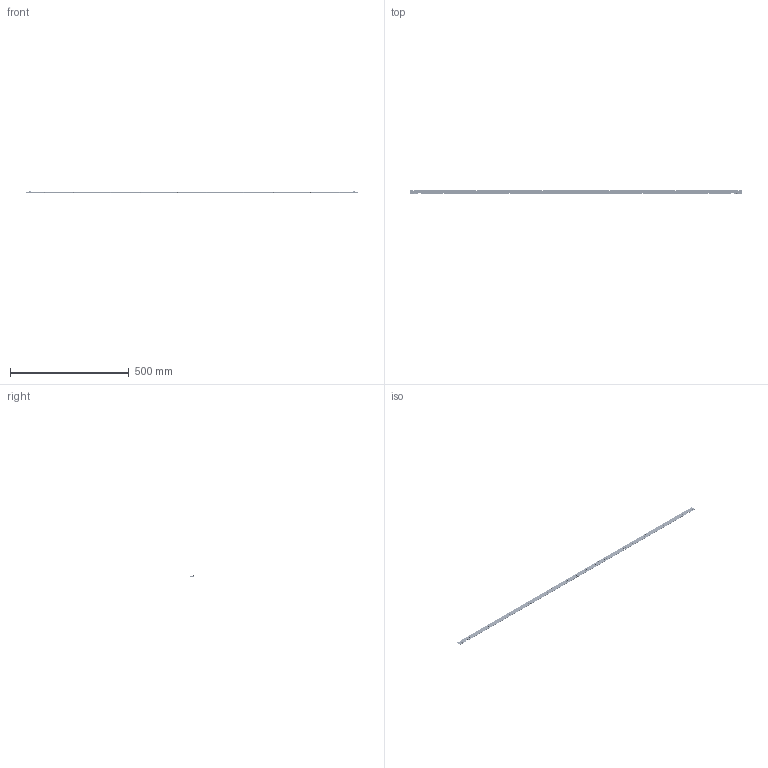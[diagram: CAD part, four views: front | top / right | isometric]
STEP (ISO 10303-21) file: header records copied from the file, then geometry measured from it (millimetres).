
FILE_DESCRIPTION(('Open CASCADE Model'),'2;1');
FILE_NAME('Open CASCADE Shape Model','2025-07-25T10:24:51',('Author'),( 'Open CASCADE'),'Open CASCADE STEP processor 7.5','Open CASCADE 7.5' ,'Unknown');
FILE_SCHEMA(('AUTOMOTIVE_DESIGN { 1 0 10303 214 1 1 1 1 }'));
Length unit declared in the file: millimetre
Products named in the file (170): PCB; Board; Open CASCADE STEP translator 7.5 7.1.1; ET1; 7155566528; Extruded; J2; BJB 46.101.1001; J1; DL1; LUXEON_2835_20160407_STEP_RGB60909; DL2; DL3; DL4; DL5; DL6; DL7; DL8; DL9; DL10; DL11; DL12; DL13; DL14; DL15; DL16; DL17; DL18; DL19; DL20; DL21; DL22; DL23; DL24; DL25; DL26; DL27; DL28; DL29; DL30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
Assembly tree (329 placements, depth 4):
  PCB
    Board
      Open CASCADE STEP translator 7.5 7.1.1
    ET1
      7155566528
        Extruded
    J2
      BJB 46.101.1001
    J1
      BJB 46.101.1001
    DL1
      LUXEON_2835_20160407_STEP_RGB60909
    DL2
      LUXEON_2835_20160407_STEP_RGB60909
    DL3
      LUXEON_2835_20160407_STEP_RGB60909
    DL4
      LUXEON_2835_20160407_STEP_RGB60909
    DL5
      LUXEON_2835_20160407_STEP_RGB60909
    DL6
      LUXEON_2835_20160407_STEP_RGB60909
    DL7
      LUXEON_2835_20160407_STEP_RGB60909
    DL8
      LUXEON_2835_20160407_STEP_RGB60909
    DL9
      LUXEON_2835_20160407_STEP_RGB60909
    DL10
      LUXEON_2835_20160407_STEP_RGB60909
    DL11
      LUXEON_2835_20160407_STEP_RGB60909
    DL12
      LUXEON_2835_20160407_STEP_RGB60909
    DL13
      LUXEON_2835_20160407_STEP_RGB60909
    DL14
      LUXEON_2835_20160407_STEP_RGB60909
    DL15
      LUXEON_2835_20160407_STEP_RGB60909
    DL16
      LUXEON_2835_20160407_STEP_RGB60909
    DL17
      LUXEON_2835_20160407_STEP_RGB60909
    DL18
      LUXEON_2835_20160407_STEP_RGB60909
    DL19
      LUXEON_2835_20160407_STEP_RGB60909
    DL20
      LUXEON_2835_20160407_STEP_RGB60909
    DL21
      LUXEON_2835_20160407_STEP_RGB60909
    DL22
      LUXEON_2835_20160407_STEP_RGB60909
    DL23
      LUXEON_2835_20160407_STEP_RGB60909
    DL24
      LUXEON_2835_20160407_STEP_RGB60909
    DL25
      LUXEON_2835_20160407_STEP_RGB60909
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Bounding box: 1399.5 x 20 x 5.49 mm (x, y, z)
Volume: 44196.3 mm3; surface area: 65077.5 mm2
Topology: 164 solids, 164 shells, 20448 faces, 57026 edges, 37476 vertices
Faces by surface type: plane 13854, cylinder 6466, bspline 128
Full cylindrical faces by diameter (mm): 3.2 x1
Entity records: 58529 total; most frequent: CARTESIAN_POINT 11768, ORIENTED_EDGE 8776, DIRECTION 8689, EDGE_CURVE 4388, LINE 3475, VECTOR 3475, VERTEX_POINT 2918, AXIS2_PLACEMENT_3D 2607
